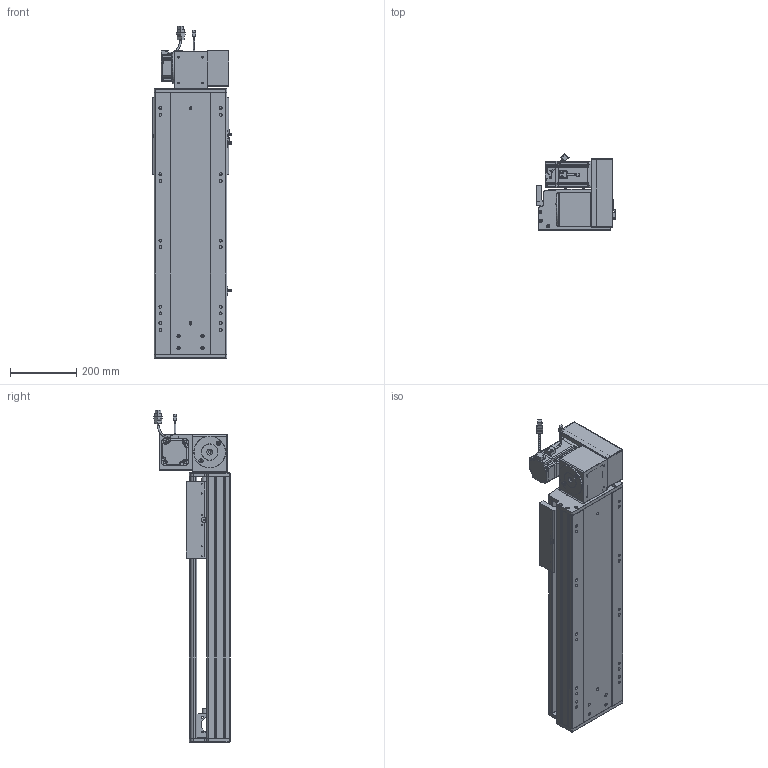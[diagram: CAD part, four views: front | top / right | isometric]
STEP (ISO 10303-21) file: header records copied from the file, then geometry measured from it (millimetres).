
FILE_DESCRIPTION (( 'STEP AP203' ), '1' );
FILE_NAME ('RY220-T-300-UR.SLDASM_450.step', '2022-07-25T08:42:37', ( '' ), ( '' ), 'SwSTEP 2.0', 'SolidWorks 2016', '' );
FILE_SCHEMA (( 'CONFIG_CONTROL_DESIGN' ));
Length unit declared in the file: millimetre
Products named in the file (14): 110A-T-肮祭謫釱傷裔; RY220翋肮祭謫裔啣; RY220-T-300-奻裔啣_450; RY220-T菁釱-300_450; RY220-同步轮副支撑座6304×2; RY220翋肮祭謫釱; RY220-俋离672覜茼んえ; RY220圉猾敕々湍臏賑輸; 滅袉蝶18-15; RY220-T-湍謫欶(鍼踢); RY220-T-300-UR.SLDASM_450; RY220-T-蛌殏萇儂假蚾啣(750W); 怢湛750W_ECMA-CX0807ES; 覜茼ん672
Assembly tree (18 placements, depth 2):
  RY220-T-300-UR.SLDASM_450
    RY220-T菁釱-300_450
    RY220翋肮祭謫釱
    覜茼ん672  x3
    RY220圉猾敕々湍臏賑輸
    RY220-T-300-奻裔啣_450
    RY220-俋离672覜茼んえ
    滅袉蝶18-15  x3
    RY220翋肮祭謫裔啣  x2
    110A-T-肮祭謫釱傷裔
    怢湛750W_ECMA-CX0807ES
    RY220-T-湍謫欶(鍼踢)
    RY220-T-蛌殏萇儂假蚾啣(750W)
    RY220-同步轮副支撑座6304×2
Bounding box: 238.7 x 231.74 x 1003.27 mm (x, y, z)
Volume: 8697361.9 mm3; surface area: 2420997.8 mm2
Topology: 19 solids, 19 shells, 2524 faces, 6959 edges, 4436 vertices
Faces by surface type: cylinder 1160, plane 1069, cone 213, bspline 56, sphere 16, torus 10
Entity records: 83939 total; most frequent: CARTESIAN_POINT 24055, ORIENTED_EDGE 12474, DIRECTION 11692, EDGE_CURVE 6237, AXIS2_PLACEMENT_3D 4102, VERTEX_POINT 4060, VECTOR 3488, LINE 3488
